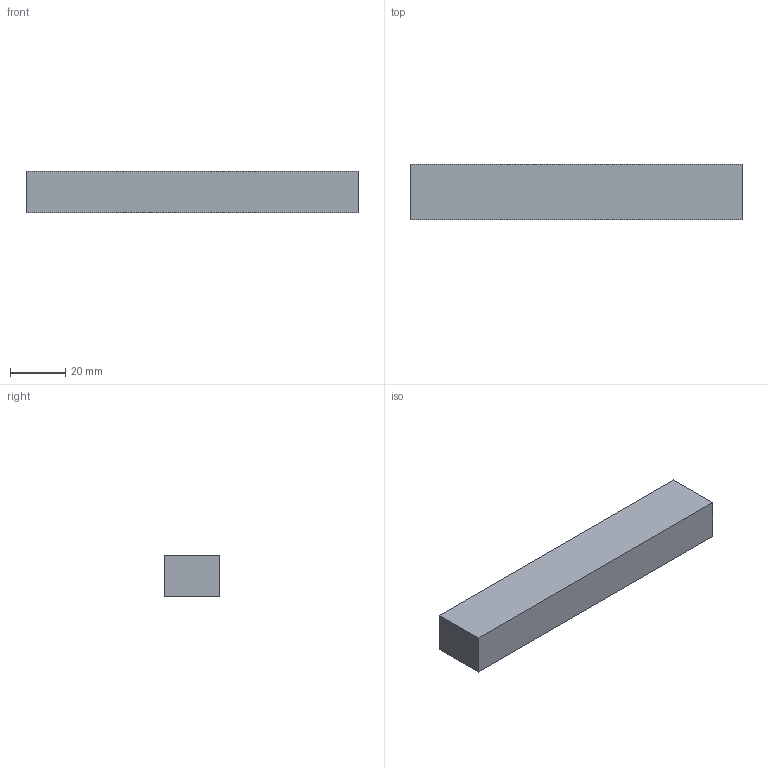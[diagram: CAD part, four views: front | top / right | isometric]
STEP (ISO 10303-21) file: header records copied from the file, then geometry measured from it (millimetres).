
FILE_DESCRIPTION(('FreeCAD Model'),'2;1');
FILE_NAME('Open CASCADE Shape Model','2026-09-11T18:40:16',('FreeCAD'),( 'FreeCAD'),'Open CASCADE STEP processor 7.8','FreeCAD','Unknown');
FILE_SCHEMA(('AUTOMOTIVE_DESIGN { 1 0 10303 214 1 1 1 1 }'));
Length unit declared in the file: millimetre
Products named in the file (1): Open CASCADE STEP translator 7.8 4
Bounding box: 120 x 20 x 15 mm (x, y, z)
Volume: 36000 mm3; surface area: 9000 mm2
Topology: 1 solids, 1 shells, 6 faces, 12 edges, 8 vertices
Faces by surface type: plane 6
Entity records: 166 total; most frequent: CARTESIAN_POINT 27, DIRECTION 26, ORIENTED_EDGE 24, EDGE_CURVE 12, LINE 12, VECTOR 12, VERTEX_POINT 8, AXIS2_PLACEMENT_3D 7
